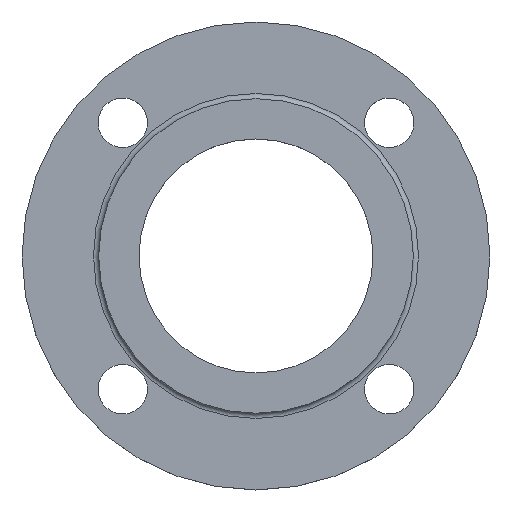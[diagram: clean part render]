
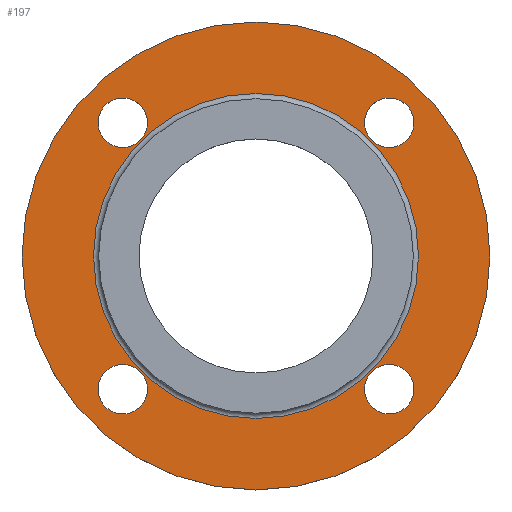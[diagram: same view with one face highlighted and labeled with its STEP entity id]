
A CAD part, top view. The second image highlights one B-rep face of the part: STEP entity #197.
In plain terms, the highlighted planar face has unit normal (0, 0, 1).
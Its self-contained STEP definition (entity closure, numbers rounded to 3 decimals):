
#33=FACE_BOUND('',#59,.T.);
#34=FACE_BOUND('',#60,.T.);
#35=FACE_BOUND('',#61,.T.);
#36=FACE_BOUND('',#62,.T.);
#37=FACE_BOUND('',#63,.T.);
#44=PLANE('',#232);
#48=FACE_OUTER_BOUND('',#58,.T.);
#58=EDGE_LOOP('',(#149,#150));
#59=EDGE_LOOP('',(#151));
#60=EDGE_LOOP('',(#152));
#61=EDGE_LOOP('',(#153));
#62=EDGE_LOOP('',(#154));
#63=EDGE_LOOP('',(#155,#156));
#78=CIRCLE('',#227,62.5);
#82=CIRCLE('',#231,62.5);
#83=CIRCLE('',#233,90.);
#84=CIRCLE('',#234,90.);
#85=CIRCLE('',#235,9.5);
#86=CIRCLE('',#236,9.5);
#87=CIRCLE('',#237,9.5);
#88=CIRCLE('',#238,9.5);
#98=VERTEX_POINT('',#326);
#99=VERTEX_POINT('',#327);
#102=VERTEX_POINT('',#336);
#103=VERTEX_POINT('',#337);
#104=VERTEX_POINT('',#340);
#105=VERTEX_POINT('',#342);
#106=VERTEX_POINT('',#344);
#107=VERTEX_POINT('',#346);
#117=EDGE_CURVE('',#98,#99,#78,.T.);
#121=EDGE_CURVE('',#99,#98,#82,.T.);
#122=EDGE_CURVE('',#102,#103,#83,.T.);
#123=EDGE_CURVE('',#103,#102,#84,.T.);
#124=EDGE_CURVE('',#104,#104,#85,.T.);
#125=EDGE_CURVE('',#105,#105,#86,.T.);
#126=EDGE_CURVE('',#106,#106,#87,.T.);
#127=EDGE_CURVE('',#107,#107,#88,.T.);
#149=ORIENTED_EDGE('',*,*,#122,.F.);
#150=ORIENTED_EDGE('',*,*,#123,.F.);
#151=ORIENTED_EDGE('',*,*,#124,.F.);
#152=ORIENTED_EDGE('',*,*,#125,.F.);
#153=ORIENTED_EDGE('',*,*,#126,.F.);
#154=ORIENTED_EDGE('',*,*,#127,.F.);
#155=ORIENTED_EDGE('',*,*,#117,.F.);
#156=ORIENTED_EDGE('',*,*,#121,.F.);
#197=ADVANCED_FACE('',(#48,#33,#34,#35,#36,#37),#44,.T.);
#227=AXIS2_PLACEMENT_3D('',#328,#260,#261);
#231=AXIS2_PLACEMENT_3D('',#334,#268,#269);
#232=AXIS2_PLACEMENT_3D('',#335,#270,#271);
#233=AXIS2_PLACEMENT_3D('',#338,#272,#273);
#234=AXIS2_PLACEMENT_3D('',#339,#274,#275);
#235=AXIS2_PLACEMENT_3D('',#341,#276,#277);
#236=AXIS2_PLACEMENT_3D('',#343,#278,#279);
#237=AXIS2_PLACEMENT_3D('',#345,#280,#281);
#238=AXIS2_PLACEMENT_3D('',#347,#282,#283);
#260=DIRECTION('center_axis',(0.,0.,1.));
#261=DIRECTION('ref_axis',(-1.,0.,0.));
#268=DIRECTION('center_axis',(0.,0.,1.));
#269=DIRECTION('ref_axis',(-1.,0.,0.));
#270=DIRECTION('center_axis',(0.,0.,1.));
#271=DIRECTION('ref_axis',(1.,0.,0.));
#272=DIRECTION('center_axis',(0.,0.,-1.));
#273=DIRECTION('ref_axis',(1.,0.,0.));
#274=DIRECTION('center_axis',(0.,0.,-1.));
#275=DIRECTION('ref_axis',(1.,0.,0.));
#276=DIRECTION('center_axis',(0.,0.,1.));
#277=DIRECTION('ref_axis',(1.,0.,0.));
#278=DIRECTION('center_axis',(0.,0.,1.));
#279=DIRECTION('ref_axis',(0.,1.,0.));
#280=DIRECTION('center_axis',(0.,0.,1.));
#281=DIRECTION('ref_axis',(-1.,0.,0.));
#282=DIRECTION('center_axis',(0.,0.,1.));
#283=DIRECTION('ref_axis',(0.,-1.,0.));
#326=CARTESIAN_POINT('',(62.5,0.,12.));
#327=CARTESIAN_POINT('',(-62.5,0.,12.));
#328=CARTESIAN_POINT('Origin',(0.,0.,12.));
#334=CARTESIAN_POINT('Origin',(0.,0.,12.));
#335=CARTESIAN_POINT('Origin',(0.,0.,12.));
#336=CARTESIAN_POINT('',(90.,0.,12.));
#337=CARTESIAN_POINT('',(-90.,0.,12.));
#338=CARTESIAN_POINT('Origin',(0.,0.,12.));
#339=CARTESIAN_POINT('Origin',(0.,0.,12.));
#340=CARTESIAN_POINT('',(-60.765,51.265,12.));
#341=CARTESIAN_POINT('Origin',(-51.265,51.265,12.));
#342=CARTESIAN_POINT('',(-51.265,-60.765,12.));
#343=CARTESIAN_POINT('Origin',(-51.265,-51.265,12.));
#344=CARTESIAN_POINT('',(60.765,-51.265,12.));
#345=CARTESIAN_POINT('Origin',(51.265,-51.265,12.));
#346=CARTESIAN_POINT('',(51.265,60.765,12.));
#347=CARTESIAN_POINT('Origin',(51.265,51.265,12.));
